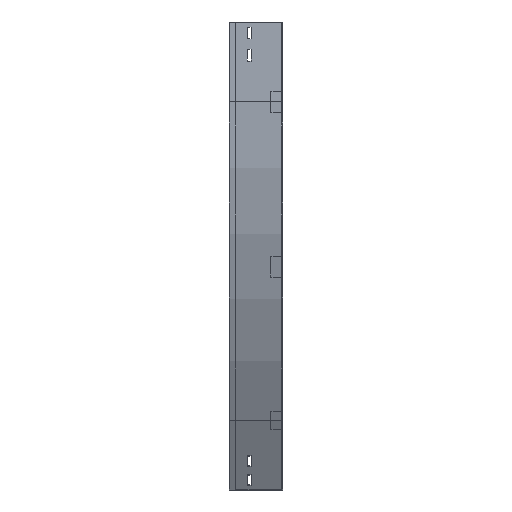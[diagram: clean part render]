
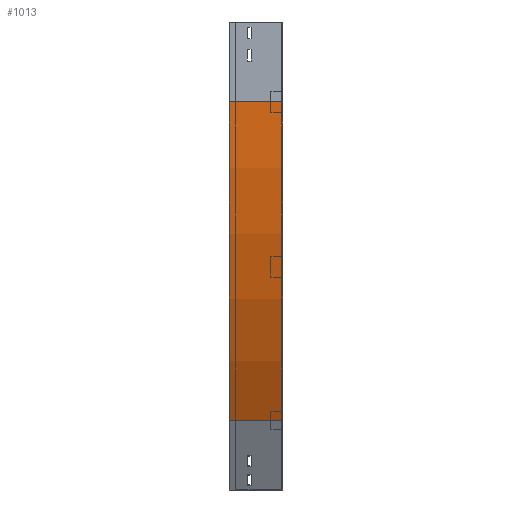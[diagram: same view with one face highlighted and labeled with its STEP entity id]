
A CAD part, left-side view. The second image highlights one B-rep face of the part: STEP entity #1013.
In plain terms, the highlighted cylindrical face has radius 1200 mm (diameter 2400 mm), a partial arc.
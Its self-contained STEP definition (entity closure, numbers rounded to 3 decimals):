
#132 = CARTESIAN_POINT ( 'NONE',  ( 0., 100., -150. ) ) ;
#226 = EDGE_CURVE ( 'NONE', #1758, #2418, #3324, .T. ) ;
#293 = VERTEX_POINT ( 'NONE', #1118 ) ;
#743 = DIRECTION ( 'NONE',  ( 0., -1., 0. ) ) ;
#755 = AXIS2_PLACEMENT_3D ( 'NONE', #1321, #2516, #3714 ) ;
#821 = CIRCLE ( 'NONE', #755, 1200. ) ;
#931 = VERTEX_POINT ( 'NONE', #1041 ) ;
#1013 = ADVANCED_FACE ( 'NONE', ( #1412 ), #2644, .T. ) ;
#1041 = CARTESIAN_POINT ( 'NONE',  ( 160.77, 0., -750. ) ) ;
#1118 = CARTESIAN_POINT ( 'NONE',  ( 0., 0., -150. ) ) ;
#1321 = CARTESIAN_POINT ( 'NONE',  ( 1200., 0., -150. ) ) ;
#1412 = FACE_OUTER_BOUND ( 'NONE', #3211, .T. ) ;
#1449 = VECTOR ( 'NONE', #3240, 1000. ) ;
#1758 = VERTEX_POINT ( 'NONE', #132 ) ;
#1760 = EDGE_CURVE ( 'NONE', #293, #931, #821, .T. ) ;
#1833 = ORIENTED_EDGE ( 'NONE', *, *, #1760, .F. ) ;
#1930 = DIRECTION ( 'NONE',  ( -1., 0., 0. ) ) ;
#2035 = CARTESIAN_POINT ( 'NONE',  ( 160.77, 0., -750. ) ) ;
#2036 = DIRECTION ( 'NONE',  ( 0., -1., 0. ) ) ;
#2053 = DIRECTION ( 'NONE',  ( 0., -1., 0. ) ) ;
#2316 = EDGE_CURVE ( 'NONE', #1758, #293, #2655, .T. ) ;
#2418 = VERTEX_POINT ( 'NONE', #3056 ) ;
#2516 = DIRECTION ( 'NONE',  ( 0., -1., 0. ) ) ;
#2519 = CARTESIAN_POINT ( 'NONE',  ( 1200., 100., -150. ) ) ;
#2571 = AXIS2_PLACEMENT_3D ( 'NONE', #2519, #743, #1930 ) ;
#2595 = LINE ( 'NONE', #2035, #3565 ) ;
#2603 = AXIS2_PLACEMENT_3D ( 'NONE', #3209, #2036, #3782 ) ;
#2644 = CYLINDRICAL_SURFACE ( 'NONE', #2603, 1200. ) ;
#2655 = LINE ( 'NONE', #3510, #1449 ) ;
#3056 = CARTESIAN_POINT ( 'NONE',  ( 160.77, 100., -750. ) ) ;
#3087 = EDGE_CURVE ( 'NONE', #2418, #931, #2595, .T. ) ;
#3209 = CARTESIAN_POINT ( 'NONE',  ( 1200., 0., -150. ) ) ;
#3211 = EDGE_LOOP ( 'NONE', ( #1833, #3438, #3708, #3212 ) ) ;
#3212 = ORIENTED_EDGE ( 'NONE', *, *, #3087, .T. ) ;
#3240 = DIRECTION ( 'NONE',  ( 0., -1., 0. ) ) ;
#3324 = CIRCLE ( 'NONE', #2571, 1200. ) ;
#3438 = ORIENTED_EDGE ( 'NONE', *, *, #2316, .F. ) ;
#3510 = CARTESIAN_POINT ( 'NONE',  ( 0., 0., -150. ) ) ;
#3565 = VECTOR ( 'NONE', #2053, 1000. ) ;
#3708 = ORIENTED_EDGE ( 'NONE', *, *, #226, .T. ) ;
#3714 = DIRECTION ( 'NONE',  ( -1., 0., 0. ) ) ;
#3782 = DIRECTION ( 'NONE',  ( 0., 0., -1. ) ) ;
